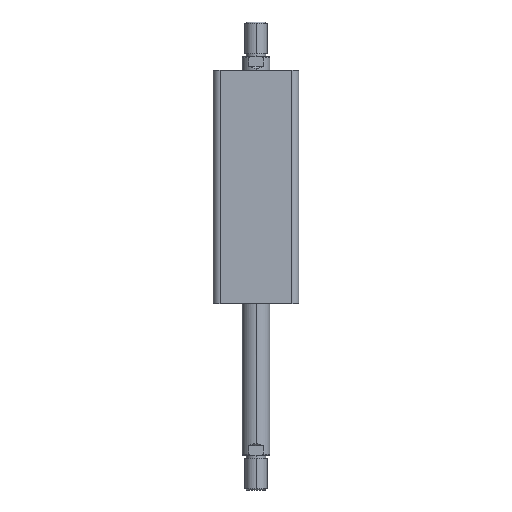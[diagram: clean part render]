
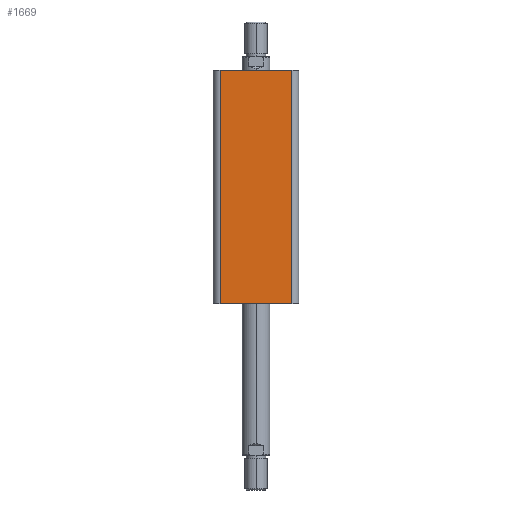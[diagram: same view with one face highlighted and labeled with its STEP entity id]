
A CAD part, left-side view. The second image highlights one B-rep face of the part: STEP entity #1669.
In plain terms, the highlighted planar face has unit normal (-1, 0, 0).
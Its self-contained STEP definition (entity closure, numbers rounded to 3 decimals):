
#71 = DIRECTION ( 'NONE',  ( 0., 1., 0. ) ) ;
#72 = DIRECTION ( 'NONE',  ( 1., 0., 0. ) ) ;
#75 = PLANE ( 'NONE',  #2527 ) ;
#85 = CARTESIAN_POINT ( 'NONE',  ( -31., 31., 169. ) ) ;
#750 = CARTESIAN_POINT ( 'NONE',  ( -31., 26., 0. ) ) ;
#1151 = CARTESIAN_POINT ( 'NONE',  ( -31., -26., 169. ) ) ;
#1154 = CARTESIAN_POINT ( 'NONE',  ( -31., -26., 0. ) ) ;
#1157 = CARTESIAN_POINT ( 'NONE',  ( -31., 26., 169. ) ) ;
#1669 = ADVANCED_FACE ( 'NONE', ( #2069 ), #75, .F. ) ;
#1744 = CARTESIAN_POINT ( 'NONE',  ( -31., -26., 169. ) ) ;
#1754 = CARTESIAN_POINT ( 'NONE',  ( -31., 31., 0. ) ) ;
#1755 = DIRECTION ( 'NONE',  ( 0., -1., 0. ) ) ;
#1756 = DIRECTION ( 'NONE',  ( 0., 0., 1. ) ) ;
#1757 = CARTESIAN_POINT ( 'NONE',  ( -31., 31., 169. ) ) ;
#1758 = DIRECTION ( 'NONE',  ( 0., -1., 0. ) ) ;
#1759 = CARTESIAN_POINT ( 'NONE',  ( -31., 26., 169. ) ) ;
#1760 = DIRECTION ( 'NONE',  ( 0., 0., -1. ) ) ;
#1995 = VERTEX_POINT ( 'NONE', #1154 ) ;
#1998 = VERTEX_POINT ( 'NONE', #1157 ) ;
#2002 = VERTEX_POINT ( 'NONE', #1151 ) ;
#2069 = FACE_OUTER_BOUND ( 'NONE', #3084, .T. ) ;
#2267 = LINE ( 'NONE', #1744, #2276 ) ;
#2271 = LINE ( 'NONE', #1754, #2274 ) ;
#2274 = VECTOR ( 'NONE', #1755, 1000. ) ;
#2275 = LINE ( 'NONE', #1757, #2278 ) ;
#2276 = VECTOR ( 'NONE', #1756, 1000. ) ;
#2277 = LINE ( 'NONE', #1759, #2280 ) ;
#2278 = VECTOR ( 'NONE', #1758, 1000. ) ;
#2280 = VECTOR ( 'NONE', #1760, 1000. ) ;
#2444 = EDGE_CURVE ( 'NONE', #2994, #1995, #2271, .T. ) ;
#2445 = EDGE_CURVE ( 'NONE', #1995, #2002, #2267, .T. ) ;
#2446 = EDGE_CURVE ( 'NONE', #1998, #2002, #2275, .T. ) ;
#2447 = EDGE_CURVE ( 'NONE', #1998, #2994, #2277, .T. ) ;
#2527 = AXIS2_PLACEMENT_3D ( 'NONE', #85, #72, #71 ) ;
#2746 = ORIENTED_EDGE ( 'NONE', *, *, #2444, .T. ) ;
#2747 = ORIENTED_EDGE ( 'NONE', *, *, #2445, .T. ) ;
#2748 = ORIENTED_EDGE ( 'NONE', *, *, #2446, .F. ) ;
#2749 = ORIENTED_EDGE ( 'NONE', *, *, #2447, .T. ) ;
#2994 = VERTEX_POINT ( 'NONE', #750 ) ;
#3084 = EDGE_LOOP ( 'NONE', ( #2746, #2747, #2748, #2749 ) ) ;
